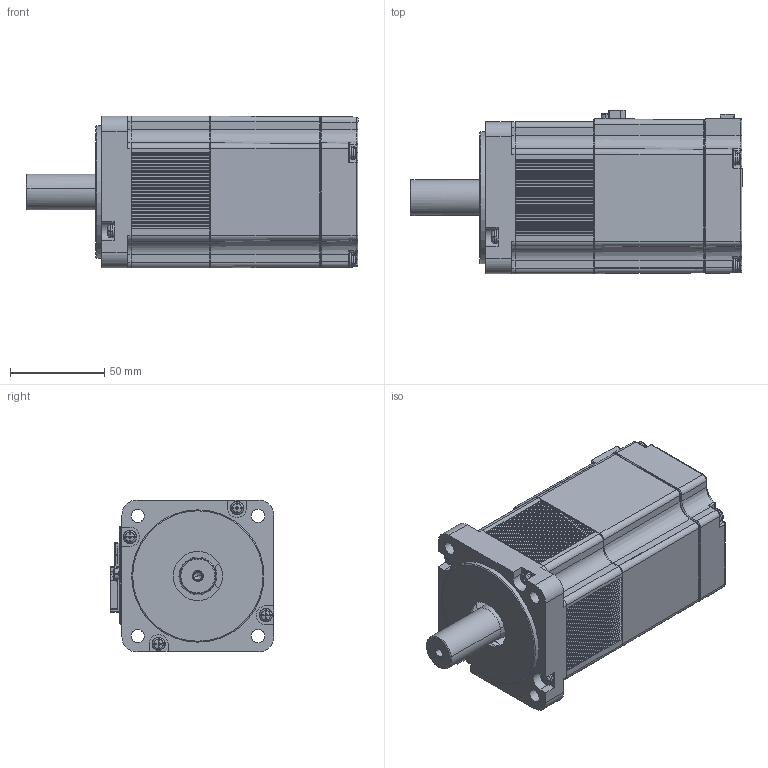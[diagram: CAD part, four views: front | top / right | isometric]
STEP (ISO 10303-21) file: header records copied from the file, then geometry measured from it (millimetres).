
FILE_DESCRIPTION (( 'STEP AP203' ), '1' );
FILE_NAME ('80-750W_BR(諼睡 歎睡辨).STEP', '2022-09-07T06:54:57', ( '' ), ( '' ), 'SwSTEP 2.0', 'SolidWorks 2020', '' );
FILE_SCHEMA (( 'CONFIG_CONTROL_DESIGN' ));
Length unit declared in the file: millimetre
Products named in the file (9): 80-750W_BR(諼睡 歎睡辨); __80-750W BRACKET(BRAKE)_ __________ ______.STEP; m4x30_____.STEP; ENCODER Receptacle.STEP; 80-750W Ы楠雖; __80-750W FRAME.STEP; __80 ENCODER COVER___________ ______.STEP; POWER RECEPTACLE.STEP; __80-750W BRAKE SHAFT1.STEP
Assembly tree (15 placements, depth 2):
  80-750W_BR(諼睡 歎睡辨)
    __80-750W FRAME.STEP
    __80-750W BRAKE SHAFT1.STEP
    POWER RECEPTACLE.STEP
    ENCODER Receptacle.STEP
    m4x30_____.STEP  x8
    __80-750W BRACKET(BRAKE)_ __________ ______.STEP
    __80 ENCODER COVER___________ ______.STEP
    80-750W Ы楠雖
Bounding box: 175.7 x 86.6 x 80.4 mm (x, y, z)
Volume: 279411.8 mm3; surface area: 126067.7 mm2
Topology: 15 solids, 21 shells, 2288 faces, 5848 edges, 3660 vertices
Faces by surface type: plane 1082, cylinder 638, bspline 248, cone 177, torus 85, sphere 58
Full cylindrical faces by diameter (mm): 4.5 x4, 7 x4, 26 x1, 47 x1, 51 x1, 69.998 x1, 75.798 x1
Entity records: 70820 total; most frequent: CARTESIAN_POINT 20446, ORIENTED_EDGE 10518, DIRECTION 10013, EDGE_CURVE 5259, AXIS2_PLACEMENT_3D 3465, VERTEX_POINT 3308, LINE 3083, VECTOR 3083
